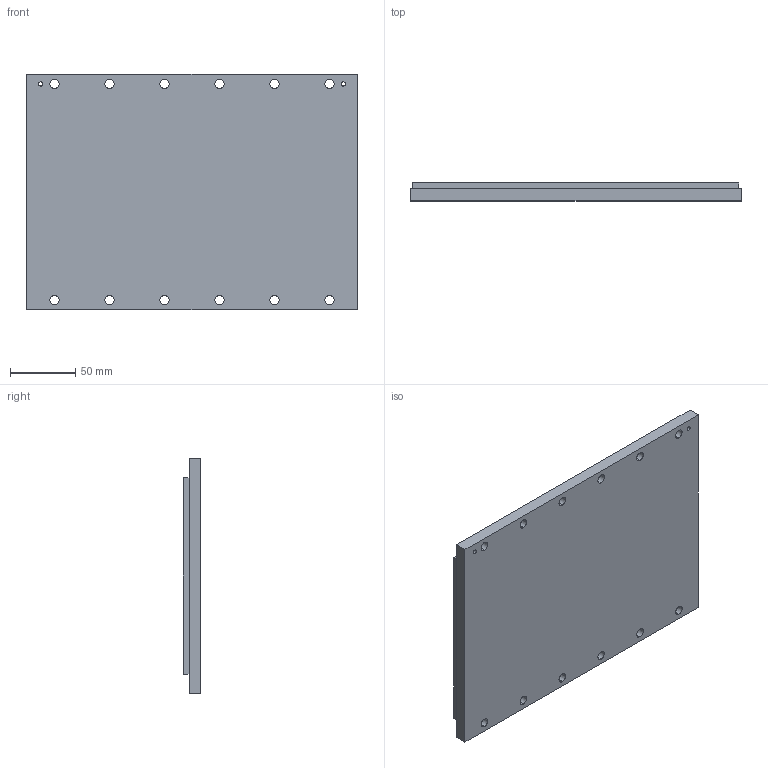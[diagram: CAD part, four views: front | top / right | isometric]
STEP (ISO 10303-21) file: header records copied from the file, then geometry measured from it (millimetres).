
FILE_DESCRIPTION (( 'STEP AP214' ), '1' );
FILE_NAME ('PIXM350-180-TL252-NC.step', '2021-11-01T10:03:04', ( '' ), ( '' ), 'SwSTEP 2.0', 'SolidWorks 2020', '' );
FILE_SCHEMA (( 'AUTOMOTIVE_DESIGN' ));
Length unit declared in the file: millimetre
Products named in the file (1): PIXM350-180-TL252-NC
Bounding box: 252 x 13.5 x 180 mm (x, y, z)
Volume: 569968.4 mm3; surface area: 178847.3 mm2
Topology: 2 solids, 2 shells, 87 faces, 210 edges, 140 vertices
Faces by surface type: cylinder 52, plane 35
Entity records: 3644 total; most frequent: DIRECTION 490, CARTESIAN_POINT 438, ORIENTED_EDGE 420, EDGE_CURVE 210, AXIS2_PLACEMENT_3D 192, VERTEX_POINT 140, EDGE_LOOP 128, LINE 106
